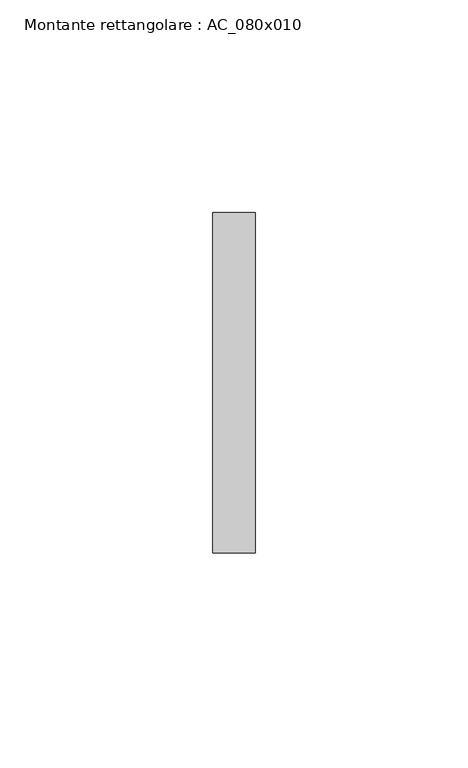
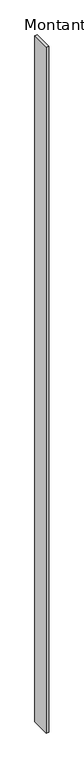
"""IFC4 building model written with IfcOpenShell, lengths in millimetres: member geometry, Montante rettangolare : AC_080x010."""

from ifc_helpers import new_model, si_unit, frame, origin, place, context, project, spatial, polyline, outline, extrude, source, transform, mapped, element, save


def montante_rettangolare_ac_080x010_85614832(model_context):
    return source(origin(), model_context, "Body", "SweptSolid", [
        extrude(outline(polyline([(0.0, 40.0), (0.0, -40.0), (-10.0, -40.0), (-10.0, 40.0), (0.0, 40.0)])), frame((0.0, 0.0, -2950.0), z_axis=(0.0, 0.0, 1.0), x_axis=(1.0, 0.0, 0.0)), (0.0, 0.0, 1.0), 2950.0),
    ])


if __name__ == "__main__":
    model = new_model("IFC4")
    model_context = context("Model", 3, world=origin())
    ifc_project = project(units=[si_unit("LENGTHUNIT", "METRE", prefix="MILLI")], contexts=[model_context])
    site = spatial("IfcSite", under=ifc_project)
    building = spatial("IfcBuilding", under=site)
    placement = place(None, origin())
    montante_rettangolare_ac_080x010_shape = montante_rettangolare_ac_080x010_85614832(model_context)
    element("IfcMember", 1, ObjectType="Montante rettangolare : AC_080x010", at=placement, inside=building, context=model_context, shape_type="MappedRepresentation", body=[
        mapped(montante_rettangolare_ac_080x010_shape, transform((0.0, 0.0, 0.0), x_axis=(1.0, 0.0, 0.0), y_axis=(0.0, 1.0, 0.0), z_axis=(0.0, 0.0, 1.0))),
    ])
    save(model, "model.ifc")
